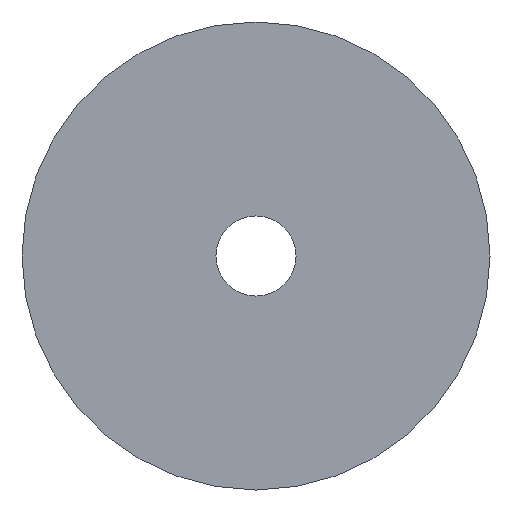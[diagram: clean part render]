
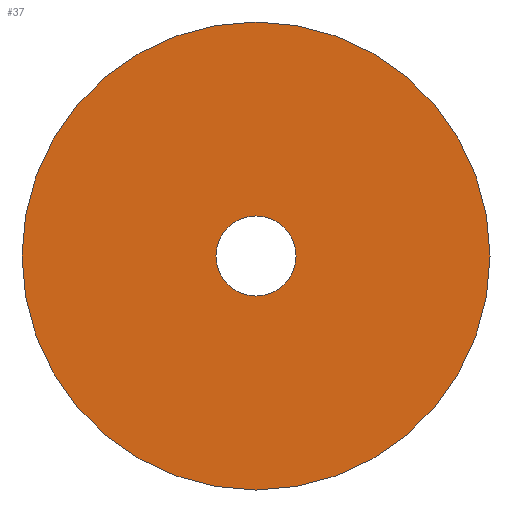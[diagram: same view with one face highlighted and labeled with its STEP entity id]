
A CAD part, left-side view. The second image highlights one B-rep face of the part: STEP entity #37.
In plain terms, the highlighted planar face has unit normal (-1, 0, 0).
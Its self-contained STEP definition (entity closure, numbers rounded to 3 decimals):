
#37 = ADVANCED_FACE( '', ( #72, #73 ), #74, .T. );
#72 = FACE_BOUND( '', #99, .T. );
#73 = FACE_OUTER_BOUND( '', #100, .T. );
#74 = PLANE( '', #101 );
#99 = EDGE_LOOP( '', ( #128 ) );
#100 = EDGE_LOOP( '', ( #129 ) );
#101 = AXIS2_PLACEMENT_3D( '', #130, #131, #132 );
#128 = ORIENTED_EDGE( '', *, *, #135, .F. );
#129 = ORIENTED_EDGE( '', *, *, #139, .T. );
#130 = CARTESIAN_POINT( '', ( -15., 0., 0. ) );
#131 = DIRECTION( '', ( -1., 0., 0. ) );
#132 = DIRECTION( '', ( 0., -1., 0. ) );
#135 = EDGE_CURVE( '', #146, #146, #147, .T. );
#139 = EDGE_CURVE( '', #152, #152, #153, .T. );
#146 = VERTEX_POINT( '', #161 );
#147 = CIRCLE( '', #162, 2.65 );
#152 = VERTEX_POINT( '', #167 );
#153 = CIRCLE( '', #168, 15.5 );
#161 = CARTESIAN_POINT( '', ( -15., -2.65, 0. ) );
#162 = AXIS2_PLACEMENT_3D( '', #176, #177, #178 );
#167 = CARTESIAN_POINT( '', ( -15., 15.5, 0. ) );
#168 = AXIS2_PLACEMENT_3D( '', #182, #183, #184 );
#176 = CARTESIAN_POINT( '', ( -15., 0., 0. ) );
#177 = DIRECTION( '', ( -1., 0., 0. ) );
#178 = DIRECTION( '', ( 0., -1., 0. ) );
#182 = CARTESIAN_POINT( '', ( -15., 0., 0. ) );
#183 = DIRECTION( '', ( -1., 0., 0. ) );
#184 = DIRECTION( '', ( 0., 1., 0. ) );
